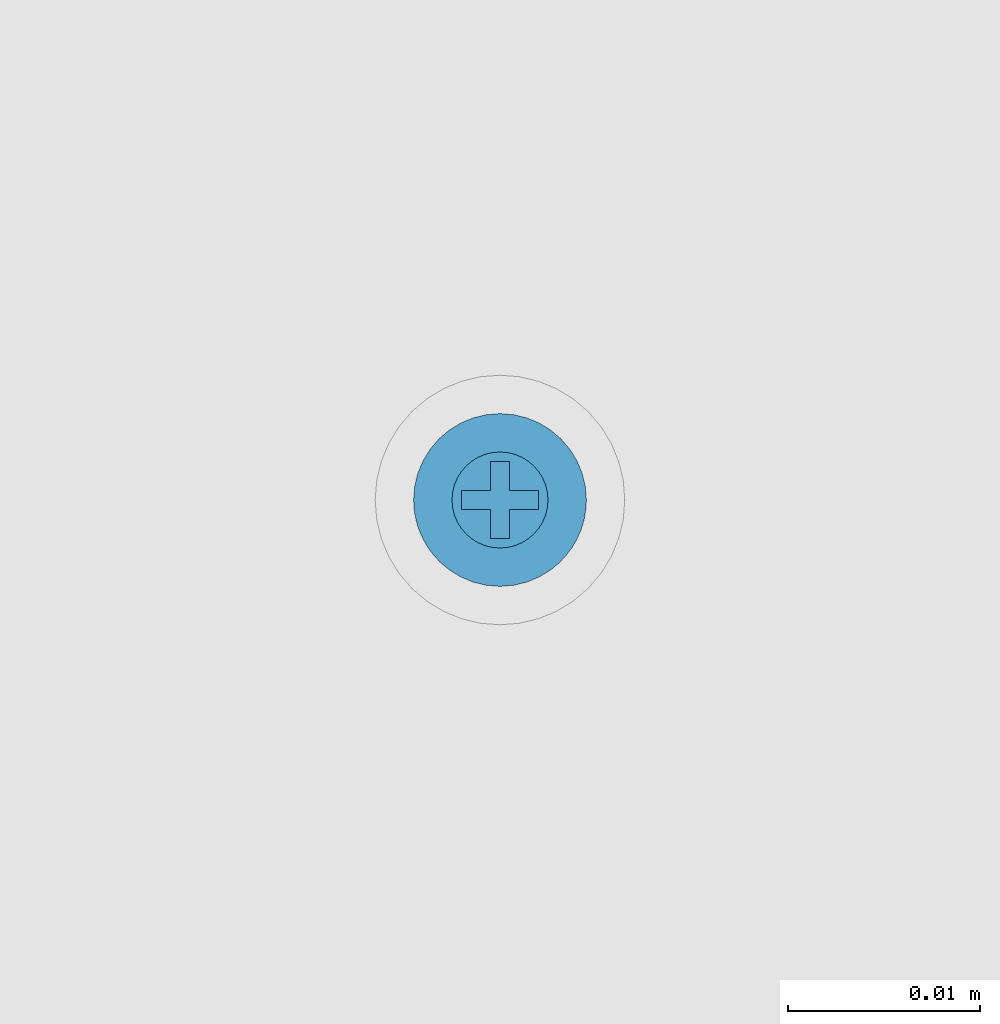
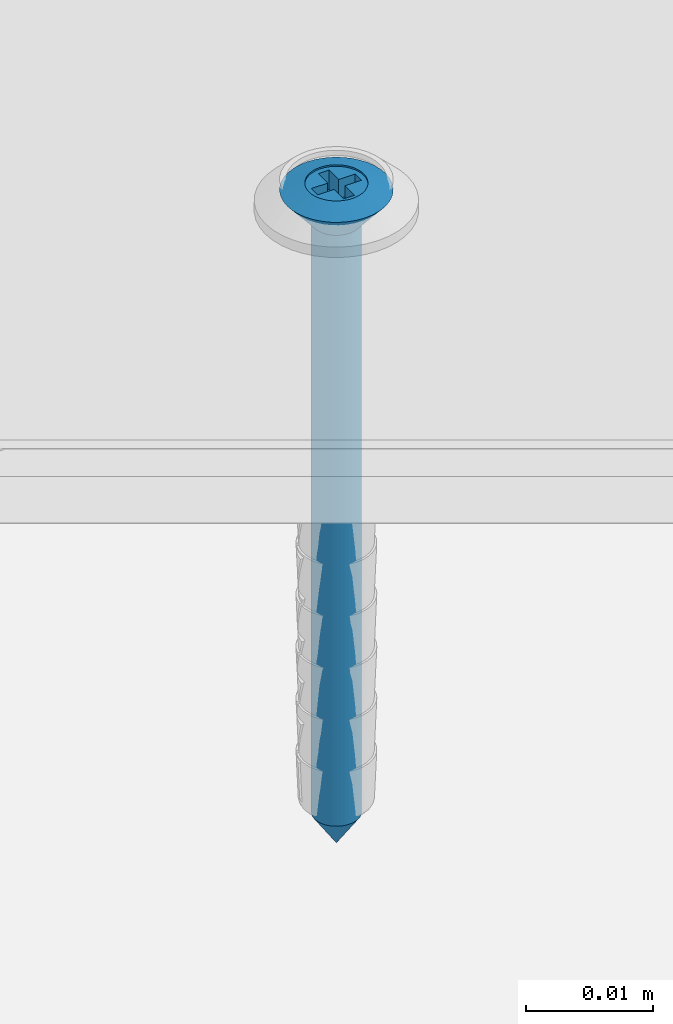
# One storey, part 67 of 92: 1 wall.
"""IFC2X3 building model written with IfcOpenShell, lengths in millimetres."""

import ifcopenshell
import ifcopenshell.guid

model = None  # the IFC model being written
_history = None  # IfcOwnerHistory: only IFC2X3 demands one
_inside = {}  # id of a spatial element -> (the spatial element, [elements in it])
_under = {}  # id of a project, library or spatial element -> (it, [spatial elements below it])
_declared = {}  # id of a project -> (the project, [libraries it declares])
_typed = {}  # id of a type object -> (the type object, [elements of that type])
_made_of = {}  # id of a material, layer set ... -> (it, [elements and type objects made of it])


def new_model(schema):
    """Start an empty IFC model of exactly this schema.

    Asked for "IFC4X3", IfcOpenShell would pick the latest addendum, in which some entities
    have other attributes; the version numbers below select the first issue.
    IFC2X3 requires an IfcOwnerHistory on every rooted entity: one is made here for all.
    """
    global model, _history
    if schema == "IFC4X3":
        model = ifcopenshell.file(schema_version=(4, 3, 0, 0))
    else:
        model = ifcopenshell.file(schema=schema)
    _inside.clear()
    _under.clear()
    _declared.clear()
    _typed.clear()
    _made_of.clear()
    _history = None
    if model.schema == "IFC2X3":
        org = make("IfcOrganization", Name="unknown")
        user = make(
            "IfcPersonAndOrganization",
            ThePerson=make("IfcPerson", FamilyName="unknown"),
            TheOrganization=org,
        )
        app = make(
            "IfcApplication",
            ApplicationDeveloper=org,
            Version="unknown",
            ApplicationFullName="unknown",
            ApplicationIdentifier="unknown",
        )
        _history = make(
            "IfcOwnerHistory",
            OwningUser=user,
            OwningApplication=app,
            ChangeAction="ADDED",
            CreationDate=0,
        )
    return model


def make(cls, **values):
    """One entity of the class cls with the attributes given. An attribute that is None is left unset."""
    return model.create_entity(
        cls, **{name: value for name, value in values.items() if value is not None}
    )


def rooted(cls, **values):
    """An entity with a GlobalId (a new one), such as an element, a storey or a relation."""
    return make(cls, GlobalId=ifcopenshell.guid.new(), OwnerHistory=_history, **values)


def si_unit(unit_type, name, prefix=None):
    """IfcSIUnit, for example si_unit("LENGTHUNIT", "METRE", prefix="MILLI")."""
    return make("IfcSIUnit", UnitType=unit_type, Prefix=prefix, Name=name)


def assignment(units):
    """IfcUnitAssignment: the units of a project."""
    return None if units is None else make("IfcUnitAssignment", Units=units)


def point(xyz):
    """IfcCartesianPoint."""
    return None if xyz is None else make("IfcCartesianPoint", Coordinates=xyz)


def direction(xyz):
    """IfcDirection."""
    return None if xyz is None else make("IfcDirection", DirectionRatios=xyz)


def frame(location, z_axis=None, x_axis=None):
    """IfcAxis2Placement3D, a coordinate frame: its origin and axes. An axis left out is left unset."""
    return make(
        "IfcAxis2Placement3D",
        Location=point(location),
        Axis=direction(z_axis),
        RefDirection=direction(x_axis),
    )


def origin_with_axes():
    """The frame at (0, 0, 0) with the z axis (0, 0, 1) and the x axis (1, 0, 0) written out."""
    return frame((0.0, 0.0, 0.0), z_axis=(0.0, 0.0, 1.0), x_axis=(1.0, 0.0, 0.0))


def place(relative_to, where):
    """IfcLocalPlacement: puts the frame where relative to a parent placement (None: the world)."""
    return make(
        "IfcLocalPlacement", PlacementRelTo=relative_to, RelativePlacement=where
    )


def context(
    kind, dimensions, precision=None, world=None, true_north=None, identifier=None
):
    """IfcGeometricRepresentationContext, for example the 3D "Model" context."""
    return make(
        "IfcGeometricRepresentationContext",
        ContextIdentifier=identifier,
        ContextType=kind,
        CoordinateSpaceDimension=dimensions,
        Precision=precision,
        WorldCoordinateSystem=world,
        TrueNorth=true_north,
    )


def subcontext(parent, identifier, kind, view, scale=None):
    """IfcGeometricRepresentationSubContext, for example "Body" below "Model"."""
    return make(
        "IfcGeometricRepresentationSubContext",
        ContextIdentifier=identifier,
        ContextType=kind,
        ParentContext=parent,
        TargetScale=scale,
        TargetView=view,
    )


def project(units=None, contexts=None):
    """IfcProject with its units and contexts."""
    return rooted(
        "IfcProject",
        Name="project",
        RepresentationContexts=contexts,
        UnitsInContext=assignment(units),
    )


def spatial(cls, under=None, at=None, **own):
    """A site, building, storey or space (cls), placed at a placement, below another one or the project."""
    s = rooted(cls, ObjectPlacement=at, **own)
    if under is not None:
        _under.setdefault(under.id(), (under, []))[1].append(s)
    return s


def faces_of(points, faces, orient=None, outer=None):
    """IfcFace entities. A face is a list of loops; a loop is a list of indices into points, from 0.

    orient and outer hold one flag for each loop. By default every Orientation is true, the
    first loop of a face is its IfcFaceOuterBound and the others are IfcFaceBound.
    """
    made = []
    for i, loops in enumerate(faces):
        bounds = []
        for j, loop in enumerate(loops):
            is_outer = j == 0 if outer is None else outer[i][j]
            bounds.append(
                make(
                    "IfcFaceOuterBound" if is_outer else "IfcFaceBound",
                    Bound=make("IfcPolyLoop", Polygon=[points[k] for k in loop]),
                    Orientation=True if orient is None else orient[i][j],
                )
            )
        made.append(make("IfcFace", Bounds=bounds))
    return made


def faceted_brep(points, faces, orient=None, outer=None, voids=None):
    """IfcFacetedBrep: a solid bounded by flat faces; with voids (closed shells), ...WithVoids."""
    shared = [point(p) for p in points]
    hull = make("IfcClosedShell", CfsFaces=faces_of(shared, faces, orient, outer))
    if voids is None:
        return make("IfcFacetedBrep", Outer=hull)
    return make(
        "IfcFacetedBrepWithVoids",
        Outer=hull,
        Voids=[
            make(cls, CfsFaces=faces_of(shared, fs, o, b)) for cls, fs, o, b in voids
        ],
    )


def shape(context_of_items, identifier, shape_type, items):
    """IfcShapeRepresentation: the items that make up one representation, for example the "Body"."""
    return make(
        "IfcShapeRepresentation",
        ContextOfItems=context_of_items,
        RepresentationIdentifier=identifier,
        RepresentationType=shape_type,
        Items=items,
    )


def material(Name=None, Category=None):
    """IfcMaterial."""
    return make("IfcMaterial", Name=Name, Category=Category)


def made_of(thing, what):
    """Note that an element or type object is made of a material, layer set ...; save() writes the relation."""
    if what is not None:
        _made_of.setdefault(what.id(), (what, []))[1].append(thing)
    return thing


def type_object(cls, material=None, **own):
    """A type object (cls), such as IfcWallType, which elements share."""
    return made_of(rooted(cls, **own), material)


def element(
    cls,
    number,
    at=None,
    inside=None,
    cuts=None,
    type_object=None,
    material=None,
    context=None,
    identifier="Body",
    shape_type=None,
    held_by="IfcProductDefinitionShape",
    body=None,
    shapes=None,
    **own,
):
    """One element of the class cls, such as IfcWall. Its Tag is "e" and its number.

    at: its placement. inside: the storey or other place that contains it. cuts: it is an
    opening in that element (IfcRelVoidsElement). A single representation is given by context,
    identifier, shape_type and body (its items); several are given by shapes. held_by: the class
    of the entity that holds the representations. save() writes the other relations.
    """
    e = rooted(cls, Tag="e%d" % number, ObjectPlacement=at, **own)
    if body is not None:
        shapes = [shape(context, identifier, shape_type, body)]
    if shapes is not None:
        e.Representation = make(held_by, Representations=shapes)
    if inside is not None:
        _inside.setdefault(inside.id(), (inside, []))[1].append(e)
    if cuts is not None:
        rooted(
            "IfcRelVoidsElement", RelatingBuildingElement=cuts, RelatedOpeningElement=e
        )
    if type_object is not None:
        _typed.setdefault(type_object.id(), (type_object, []))[1].append(e)
    return made_of(e, material)


def aggregate(whole, parts):
    """IfcRelAggregates: a whole, such as a stair, and the parts it consists of."""
    return rooted("IfcRelAggregates", RelatingObject=whole, RelatedObjects=parts)


def save(model, path):
    """Write the relations noted so far, then the file.

    IfcRelAggregates (storeys below a building ...), IfcRelContainedInSpatialStructure (elements
    in a storey), IfcRelDefinesByType, IfcRelAssociatesMaterial and IfcRelDeclares: one each for
    every whole, place, type object, material and project.
    """
    for whole, parts in _under.values():
        aggregate(whole, parts)
    for where, things in _inside.values():
        rooted(
            "IfcRelContainedInSpatialStructure",
            RelatedElements=things,
            RelatingStructure=where,
        )
    for kind, things in _typed.values():
        rooted("IfcRelDefinesByType", RelatedObjects=things, RelatingType=kind)
    for what, things in _made_of.values():
        rooted("IfcRelAssociatesMaterial", RelatedObjects=things, RelatingMaterial=what)
    for by, libraries in _declared.values():
        rooted("IfcRelDeclares", RelatingContext=by, RelatedDefinitions=libraries)
    model.write(path)


model = new_model("IFC2X3")

# Units and contexts
model_context = context("Model", 3, world=origin_with_axes())
body_context = subcontext(model_context, "Body", "Model", "MODEL_VIEW")
ifc_project = project(units=[si_unit("LENGTHUNIT", "METRE", prefix="MILLI"), si_unit("AREAUNIT", "SQUARE_METRE"), si_unit("VOLUMEUNIT", "CUBIC_METRE")], contexts=[model_context])

# Site, building, storey
site_placement = place(None, origin_with_axes())
site = spatial("IfcSite", under=ifc_project, at=site_placement, Name="Default Site", CompositionType="ELEMENT")
building_placement = place(site_placement, origin_with_axes())
building = spatial("IfcBuilding", under=site, at=building_placement, Name="Default Building", CompositionType="ELEMENT")
storey_placement = place(building_placement, origin_with_axes())
storey = spatial("IfcBuildingStorey", under=building, at=storey_placement, Name="Default Building Storey", CompositionType="ELEMENT", Elevation=0.0)

# Wall
ifc_material = material(Name="Default")
wall_type = type_object("IfcWallType", Name="Kołek rozporowy min. fi 6", PredefinedType="NOTDEFINED")
wall_placement = place(storey_placement, frame((-3376.2832229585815, 3055.545827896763, 67.99291798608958), z_axis=(0.0, 0.0, 1.0), x_axis=(4.0245584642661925e-16, 1.0, 0.0)))
element("IfcWall", 1, at=wall_placement, inside=storey, type_object=wall_type, material=ifc_material, Name="Kołek rozporowy min. fi 6", context=body_context, shape_type="Brep", body=[
    faceted_brep([(-1438.2587671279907, -3452.579259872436, -0.46425670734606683), (-1435.7895851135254, -3452.970266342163, -3.464256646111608), (-1435.8141422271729, -3453.2833099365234, -3.464256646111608), (-1438.3141994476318, -3453.2833099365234, -0.46425670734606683), (-1438.093900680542, -3451.892614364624, -0.46425670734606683), (-1435.7162714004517, -3452.6650905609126, -3.464256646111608), (-1437.8236532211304, -3451.240301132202, -0.46425670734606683), (-1435.5961084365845, -3452.3751735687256, -3.464256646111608), (-1437.4547004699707, -3450.6382942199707, -0.46425670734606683), (-1435.4321956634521, -3452.107667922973, -3.464256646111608), (-1436.9961023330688, -3450.101137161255, -0.46425670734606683), (-1435.22834777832, -3451.8690109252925, -3.464256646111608), (-1436.4591836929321, -3449.642658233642, -0.46425670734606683), (-1434.9896907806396, -3451.665163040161, -3.464256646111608), (-1435.8570575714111, -3449.2735862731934, -0.46425670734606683), (-1434.7221851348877, -3451.501131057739, -3.464256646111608), (-1435.2047443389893, -3449.0034580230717, -0.46425670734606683), (-1434.4321489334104, -3451.381206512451, -3.464256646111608), (-1434.5180988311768, -3448.838710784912, -0.46425670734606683), (-1434.1269731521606, -3451.307773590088, -3.464256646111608), (-1433.8141679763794, -3448.7831592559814, -0.46425670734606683), (-1433.8141679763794, -3451.28321647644, -3.464256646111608), (-1433.110237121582, -3448.838710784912, -0.46425670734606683), (-1433.5012435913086, -3451.307773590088, -3.464256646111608), (-1432.4235916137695, -3449.0034580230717, -0.46425670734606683), (-1433.1960678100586, -3451.381206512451, -3.464256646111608), (-1431.771159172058, -3449.2735862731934, -0.46425670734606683), (-1432.9061508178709, -3451.501131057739, -3.464256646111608), (-1431.1691522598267, -3449.642658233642, -0.46425670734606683), (-1432.6385259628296, -3451.665163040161, -3.464256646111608), (-1430.6321144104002, -3450.101137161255, -0.46425670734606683), (-1432.3999881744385, -3451.8690109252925, -3.464256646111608), (-1430.1735162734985, -3450.6382942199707, -0.46425670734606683), (-1432.1961402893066, -3452.107667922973, -3.464256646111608), (-1429.8045635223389, -3451.240301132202, -0.46425670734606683), (-1432.0321083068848, -3452.3751735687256, -3.464256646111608), (-1429.5344352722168, -3451.892614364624, -0.46425670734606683), (-1431.9120645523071, -3452.6650905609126, -3.464256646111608), (-1431.814193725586, -3453.2833099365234, -3.464256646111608), (-1429.314136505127, -3453.2833099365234, -0.46425670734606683), (-1429.369568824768, -3453.9871215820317, -0.46425670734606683), (-1431.8387508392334, -3453.5961151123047, -3.464256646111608), (-1431.8387508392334, -3452.970266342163, -3.464256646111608), (-1429.369568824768, -3452.579259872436, -0.46425670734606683), (-1429.5344352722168, -3454.6737670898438, -0.46425670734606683), (-1431.9120645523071, -3453.9012908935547, -3.464256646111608), (-1429.8045635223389, -3455.3260803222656, -0.46425670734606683), (-1432.0321083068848, -3454.191207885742, -3.464256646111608), (-1430.1735162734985, -3455.9283256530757, -0.46425670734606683), (-1432.1961402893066, -3454.458713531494, -3.464256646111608), (-1430.6321144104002, -3456.465244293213, -0.46425670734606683), (-1432.3999881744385, -3454.6973705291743, -3.464256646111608), (-1431.1691522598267, -3456.923723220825, -0.46425670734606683), (-1432.6385259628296, -3454.9012184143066, -3.464256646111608), (-1431.771159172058, -3457.2927951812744, -0.46425670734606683), (-1432.9061508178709, -3455.065250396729, -3.464256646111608), (-1432.4235916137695, -3457.562923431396, -0.46425670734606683), (-1433.1960678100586, -3455.1854133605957, -3.464256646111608), (-1433.110237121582, -3457.7279090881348, -0.46425670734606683), (-1433.5012435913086, -3455.25860786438, -3.464256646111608), (-1433.8141679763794, -3457.7832221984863, -0.46425670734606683), (-1433.8141679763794, -3455.283164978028, -3.464256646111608), (-1434.1269731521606, -3455.25860786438, -3.464256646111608), (-1434.3430995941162, -3457.7519893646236, -0.46425670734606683), (-1434.4321489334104, -3455.1854133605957, -3.464256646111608), (-1434.8646402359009, -3457.6590061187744, -0.46425670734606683), (-1435.3716373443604, -3457.504987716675, -0.46425670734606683), (-1434.7221851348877, -3455.065250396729, -3.464256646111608), (-1435.8570575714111, -3457.2927951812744, -0.46425670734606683), (-1436.3142251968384, -3457.024812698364, -0.46425670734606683), (-1435.22834777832, -3454.6973705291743, -3.464256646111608), (-1434.9896907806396, -3454.9012184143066, -3.464256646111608), (-1436.7367029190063, -3456.705093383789, -0.46425670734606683), (-1437.118649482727, -3456.337928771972, -0.46425670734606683), (-1435.4321956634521, -3454.458713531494, -3.464256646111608), (-1437.4547004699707, -3455.9283256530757, -0.46425670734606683), (-1437.8236532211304, -3455.3260803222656, -0.46425670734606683), (-1435.5961084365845, -3454.191207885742, -3.464256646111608), (-1438.093900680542, -3454.6737670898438, -0.46425670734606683), (-1435.7162714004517, -3453.9012908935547, -3.464256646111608), (-1438.2587671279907, -3453.9871215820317, -0.46425670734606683), (-1435.7895851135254, -3453.5961151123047, -3.464256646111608), (-1433.8141679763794, -3455.7831287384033, 0.20073754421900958), (-1434.2052936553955, -3455.752372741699, 0.20073754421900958), (-1434.5866441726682, -3455.6608200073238, 0.20073754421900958), (-1434.9491596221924, -3455.510854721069, 0.20073754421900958), (-1435.2836608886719, -3455.305814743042, 0.20073754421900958), (-1435.581922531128, -3455.0509452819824, 0.20073754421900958), (-1435.836672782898, -3454.7526836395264, 0.20073754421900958), (-1436.0417127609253, -3454.418182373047, 0.20073754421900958), (-1436.1917972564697, -3454.0557861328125, 0.20073754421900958), (-1436.2833499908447, -3453.6743164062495, 0.20073754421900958), (-1436.3141059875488, -3453.2833099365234, 0.20073754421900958), (-1436.2833499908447, -3452.8920650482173, 0.20073754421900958), (-1436.1917972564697, -3452.5105953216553, 0.20073754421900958), (-1436.0417127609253, -3452.148199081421, 0.20073754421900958), (-1435.836672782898, -3451.8136978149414, 0.20073754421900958), (-1435.581922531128, -3451.5154361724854, 0.20073754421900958), (-1435.2836608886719, -3451.260566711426, 0.20073754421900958), (-1434.9491596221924, -3451.0557651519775, 0.20073754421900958), (-1434.5866441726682, -3450.905561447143, 0.20073754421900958), (-1433.8141679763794, -3450.7832527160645, 0.20073754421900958), (-1433.4230422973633, -3450.8140087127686, 0.20073754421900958), (-1434.2052936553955, -3450.8140087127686, 0.20073754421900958), (-1433.0415725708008, -3450.905561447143, 0.20073754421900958), (-1432.6791763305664, -3451.0557651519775, 0.20073754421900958), (-1432.344675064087, -3451.260566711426, 0.20073754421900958), (-1432.0464134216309, -3451.5154361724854, 0.20073754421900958), (-1431.7916631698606, -3451.8136978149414, 0.20073754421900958), (-1431.5866231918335, -3452.148199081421, 0.20073754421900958), (-1431.436538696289, -3452.5105953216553, 0.20073754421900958), (-1431.344985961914, -3452.8920650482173, 0.20073754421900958), (-1431.3141107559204, -3453.2833099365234, 0.20073754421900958), (-1431.344985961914, -3453.6743164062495, 0.20073754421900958), (-1431.436538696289, -3454.0557861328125, 0.20073754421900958), (-1431.5866231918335, -3454.418182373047, 0.20073754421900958), (-1431.7916631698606, -3454.7526836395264, 0.20073754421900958), (-1432.0464134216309, -3455.0509452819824, 0.20073754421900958), (-1432.344675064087, -3455.305814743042, 0.20073754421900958), (-1432.6791763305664, -3455.510854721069, 0.20073754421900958), (-1433.0415725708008, -3455.6608200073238, 0.20073754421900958), (-1433.4230422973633, -3455.752372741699, 0.20073754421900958), (-1435.8141422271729, -3453.2833099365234, -60.464255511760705), (-1435.7895851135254, -3452.970266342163, -60.464255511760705), (-1433.8141679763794, -3453.2833099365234, -63.46425414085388), (-1435.7162714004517, -3452.6650905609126, -60.464255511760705), (-1435.5961084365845, -3452.3751735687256, -60.464255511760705), (-1435.4321956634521, -3452.107667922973, -60.464255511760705), (-1435.22834777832, -3451.8690109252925, -60.464255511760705), (-1434.9896907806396, -3451.665163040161, -60.464255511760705), (-1434.7221851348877, -3451.501131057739, -60.464255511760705), (-1434.4321489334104, -3451.381206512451, -60.464255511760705), (-1434.1269731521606, -3451.307773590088, -60.464255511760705), (-1433.8141679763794, -3451.28321647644, -60.464255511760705), (-1433.5012435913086, -3451.307773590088, -60.464255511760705), (-1433.1960678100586, -3451.381206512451, -60.464255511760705), (-1432.9061508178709, -3451.501131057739, -60.464255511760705), (-1432.6385259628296, -3451.665163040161, -60.464255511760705), (-1432.3999881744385, -3451.8690109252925, -60.464255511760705), (-1432.1961402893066, -3452.107667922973, -60.464255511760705), (-1432.0321083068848, -3452.3751735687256, -60.464255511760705), (-1431.9120645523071, -3452.6650905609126, -60.464255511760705), (-1431.8387508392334, -3452.970266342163, -60.464255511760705), (-1431.814193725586, -3453.2833099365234, -60.464255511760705), (-1431.8387508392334, -3453.5961151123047, -60.464255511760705), (-1431.9120645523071, -3453.9012908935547, -60.464255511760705), (-1432.0321083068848, -3454.191207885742, -60.464255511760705), (-1432.1961402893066, -3454.458713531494, -60.464255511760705), (-1432.3999881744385, -3454.6973705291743, -60.464255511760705), (-1432.6385259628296, -3454.9012184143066, -60.464255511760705), (-1432.9061508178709, -3455.065250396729, -60.464255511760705), (-1433.1960678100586, -3455.1854133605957, -60.464255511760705), (-1433.5012435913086, -3455.25860786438, -60.464255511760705), (-1433.8141679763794, -3455.283164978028, -60.464255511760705), (-1434.1269731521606, -3455.25860786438, -60.464255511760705), (-1434.4321489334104, -3455.1854133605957, -60.464255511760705), (-1434.7221851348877, -3455.065250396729, -60.464255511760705), (-1434.9896907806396, -3454.9012184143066, -60.464255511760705), (-1435.22834777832, -3454.6973705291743, -60.464255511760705), (-1435.4321956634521, -3454.458713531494, -60.464255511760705), (-1435.5961084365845, -3454.191207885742, -60.464255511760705), (-1435.7162714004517, -3453.9012908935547, -60.464255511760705), (-1435.7895851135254, -3453.5961151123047, -60.464255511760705), (-1436.1917972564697, -3454.0557861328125, 0.049999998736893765), (-1436.0417127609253, -3454.418182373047, 0.049999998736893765), (-1435.836672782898, -3454.7526836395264, 0.049999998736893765), (-1435.581922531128, -3455.0509452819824, 0.049999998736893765), (-1435.2836608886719, -3455.305814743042, 0.049999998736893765), (-1434.9491596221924, -3455.510854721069, 0.049999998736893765), (-1434.5866441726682, -3455.6608200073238, 0.049999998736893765), (-1434.2052936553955, -3455.752372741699, 0.049999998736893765), (-1433.8141679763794, -3455.7831287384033, 0.049999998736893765), (-1433.4230422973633, -3455.752372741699, 0.049999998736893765), (-1433.0415725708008, -3455.6608200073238, 0.049999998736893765), (-1432.6791763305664, -3455.510854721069, 0.049999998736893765), (-1432.344675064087, -3455.305814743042, 0.049999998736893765), (-1432.0464134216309, -3455.0509452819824, 0.049999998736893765), (-1431.7916631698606, -3454.7526836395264, 0.049999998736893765), (-1431.5866231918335, -3454.418182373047, 0.049999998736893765), (-1431.436538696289, -3454.0557861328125, 0.049999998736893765), (-1431.344985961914, -3453.6743164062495, 0.049999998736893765), (-1431.3141107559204, -3453.2833099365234, 0.049999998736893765), (-1431.344985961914, -3452.8920650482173, 0.049999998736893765), (-1431.436538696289, -3452.5105953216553, 0.049999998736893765), (-1431.5866231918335, -3452.148199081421, 0.049999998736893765), (-1431.7916631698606, -3451.8136978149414, 0.049999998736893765), (-1432.0464134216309, -3451.5154361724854, 0.049999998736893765), (-1432.344675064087, -3451.260566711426, 0.049999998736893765), (-1432.6791763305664, -3451.0557651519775, 0.049999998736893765), (-1433.0415725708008, -3450.905561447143, 0.049999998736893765), (-1433.4230422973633, -3450.8140087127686, 0.049999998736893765), (-1433.8141679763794, -3450.7832527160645, 0.049999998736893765), (-1434.2052936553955, -3450.8140087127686, 0.049999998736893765), (-1434.5866441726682, -3450.905561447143, 0.049999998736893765), (-1434.9491596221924, -3451.0557651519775, 0.049999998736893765), (-1435.2836608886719, -3451.260566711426, 0.049999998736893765), (-1435.581922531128, -3451.5154361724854, 0.049999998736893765), (-1435.836672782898, -3451.8136978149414, 0.049999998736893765), (-1436.0417127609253, -3452.148199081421, 0.049999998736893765), (-1436.1917972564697, -3452.5105953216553, 0.049999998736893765), (-1436.2833499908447, -3452.8920650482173, 0.049999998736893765), (-1436.3141059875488, -3453.2833099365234, 0.049999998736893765), (-1436.2833499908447, -3453.6743164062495, 0.049999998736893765), (-1434.3141317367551, -3453.7832736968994, 0.049999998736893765), (-1435.8141422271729, -3453.7832736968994, 0.049999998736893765), (-1435.8141422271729, -3452.7831077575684, 0.049999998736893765), (-1434.3141317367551, -3452.7831077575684, 0.049999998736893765), (-1434.3141317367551, -3451.28321647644, 0.049999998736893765), (-1433.3142042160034, -3451.28321647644, 0.049999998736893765), (-1433.3142042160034, -3452.7831077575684, 0.049999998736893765), (-1431.814193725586, -3452.7831077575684, 0.049999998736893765), (-1431.814193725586, -3453.7832736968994, 0.049999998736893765), (-1433.3142042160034, -3453.7832736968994, 0.049999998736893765), (-1433.3142042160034, -3455.283164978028, 0.049999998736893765), (-1434.3141317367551, -3455.283164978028, 0.049999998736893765), (-1435.8141422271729, -3452.7831077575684, -1.799262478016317), (-1435.8141422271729, -3453.7832736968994, -1.799262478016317), (-1434.3141317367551, -3453.7832736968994, -1.799262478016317), (-1434.3141317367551, -3455.283164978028, -1.799262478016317), (-1433.3142042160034, -3455.283164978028, -1.799262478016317), (-1433.3142042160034, -3453.7832736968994, -1.799262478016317), (-1431.814193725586, -3453.7832736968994, -1.799262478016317), (-1431.814193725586, -3452.7831077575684, -1.799262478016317), (-1433.3142042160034, -3452.7831077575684, -1.799262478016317), (-1433.3142042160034, -3451.28321647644, -1.799262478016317), (-1434.3141317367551, -3451.28321647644, -1.799262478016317), (-1434.3141317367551, -3452.7831077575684, -1.799262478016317)], [[[0, 1, 2, 3]], [[1, 0, 4, 5]], [[5, 4, 6, 7]], [[8, 9, 7, 6]], [[9, 8, 10, 11]], [[12, 13, 11, 10]], [[13, 12, 14, 15]], [[15, 14, 16, 17]], [[18, 19, 17, 16]], [[19, 18, 20, 21]], [[22, 23, 21, 20]], [[23, 22, 24, 25]], [[25, 24, 26, 27]], [[28, 29, 27, 26]], [[29, 28, 30, 31]], [[32, 33, 31, 30]], [[33, 32, 34, 35]], [[35, 34, 36, 37]], [[38, 39, 40, 41]], [[42, 43, 39, 38]], [[43, 42, 37, 36]], [[41, 40, 44, 45]], [[45, 44, 46, 47]], [[48, 49, 47, 46]], [[49, 48, 50, 51]], [[52, 53, 51, 50]], [[53, 52, 54, 55]], [[55, 54, 56, 57]], [[58, 59, 57, 56]], [[59, 58, 60, 61]], [[62, 60, 63]], [[62, 61, 60]], [[63, 64, 62]], [[63, 65, 64]], [[64, 65, 66]], [[66, 67, 64]], [[66, 68, 67]], [[69, 70, 71]], [[69, 72, 70]], [[71, 68, 69]], [[71, 67, 68]], [[72, 73, 70]], [[74, 73, 75]], [[74, 70, 73]], [[74, 75, 76, 77]], [[77, 76, 78, 79]], [[80, 81, 79, 78]], [[81, 80, 3, 2]], [[63, 82, 83]], [[63, 60, 82]], [[83, 65, 63]], [[83, 84, 65]], [[84, 68, 66]], [[84, 85, 68]], [[66, 65, 84]], [[69, 85, 86]], [[69, 68, 85]], [[87, 73, 72]], [[72, 86, 87]], [[72, 69, 86]], [[75, 87, 88]], [[75, 73, 87]], [[75, 88, 89, 76]], [[76, 89, 90, 78]], [[91, 80, 78, 90]], [[80, 91, 92, 3]], [[93, 0, 3, 92]], [[0, 93, 94, 4]], [[4, 94, 95, 6]], [[96, 8, 6, 95]], [[8, 96, 97, 10]], [[98, 12, 10, 97]], [[12, 98, 99, 14]], [[14, 99, 100, 16]], [[20, 101, 102, 22]], [[18, 103, 101, 20]], [[103, 18, 16, 100]], [[22, 102, 104, 24]], [[24, 104, 105, 26]], [[106, 28, 26, 105]], [[28, 106, 107, 30]], [[108, 32, 30, 107]], [[32, 108, 109, 34]], [[34, 109, 110, 36]], [[111, 43, 36, 110]], [[43, 111, 112, 39]], [[113, 40, 39, 112]], [[40, 113, 114, 44]], [[44, 114, 115, 46]], [[116, 48, 46, 115]], [[48, 116, 117, 50]], [[118, 52, 50, 117]], [[52, 118, 119, 54]], [[54, 119, 120, 56]], [[121, 58, 56, 120]], [[58, 121, 82, 60]], [[122, 123, 124]], [[123, 125, 124]], [[125, 126, 124]], [[124, 126, 127]], [[127, 128, 124]], [[124, 128, 129]], [[129, 130, 124]], [[130, 131, 124]], [[124, 131, 132]], [[132, 133, 124]], [[124, 133, 134]], [[134, 135, 124]], [[135, 136, 124]], [[124, 136, 137]], [[137, 138, 124]], [[124, 138, 139]], [[139, 140, 124]], [[140, 141, 124]], [[124, 141, 142]], [[142, 143, 124]], [[124, 143, 144]], [[144, 145, 124]], [[145, 146, 124]], [[124, 146, 147]], [[147, 148, 124]], [[124, 148, 149]], [[149, 150, 124]], [[150, 151, 124]], [[124, 151, 152]], [[152, 153, 124]], [[124, 153, 154]], [[154, 155, 124]], [[155, 156, 124]], [[124, 156, 157]], [[157, 158, 124]], [[124, 158, 159]], [[159, 160, 124]], [[160, 161, 124]], [[124, 161, 162]], [[124, 162, 122]], [[1, 123, 122, 2]], [[123, 1, 5, 125]], [[125, 5, 7, 126]], [[9, 127, 126, 7]], [[127, 9, 11, 128]], [[13, 129, 128, 11]], [[129, 13, 15, 130]], [[130, 15, 17, 131]], [[19, 132, 131, 17]], [[132, 19, 21, 133]], [[23, 134, 133, 21]], [[134, 23, 25, 135]], [[135, 25, 27, 136]], [[29, 137, 136, 27]], [[137, 29, 31, 138]], [[33, 139, 138, 31]], [[139, 33, 35, 140]], [[140, 35, 37, 141]], [[143, 38, 41, 144]], [[142, 42, 38, 143]], [[42, 142, 141, 37]], [[144, 41, 45, 145]], [[145, 45, 47, 146]], [[49, 147, 146, 47]], [[147, 49, 51, 148]], [[53, 149, 148, 51]], [[149, 53, 55, 150]], [[150, 55, 57, 151]], [[59, 152, 151, 57]], [[152, 59, 61, 153]], [[62, 154, 153, 61]], [[154, 62, 64, 155]], [[155, 64, 67, 156]], [[71, 157, 156, 67]], [[157, 71, 70, 158]], [[74, 159, 158, 70]], [[159, 74, 77, 160]], [[160, 77, 79, 161]], [[81, 162, 161, 79]], [[162, 81, 2, 122]], [[163, 164, 165, 166, 167, 168, 169, 170, 171, 172, 173, 174, 175, 176, 177, 178, 179, 180, 181, 182, 183, 184, 185, 186, 187, 188, 189, 190, 191, 192, 193, 194, 195, 196, 197, 198, 199, 200, 201, 202], [203, 204, 205, 206, 207, 208, 209, 210, 211, 212, 213, 214]], [[113, 112, 181, 180]], [[180, 179, 114, 113]], [[179, 178, 115, 114]], [[116, 115, 178, 177]], [[177, 176, 117, 116]], [[118, 117, 176, 175]], [[175, 174, 119, 118]], [[174, 173, 120, 119]], [[121, 120, 173, 172]], [[172, 171, 82, 121]], [[83, 82, 171, 170]], [[170, 169, 84, 83]], [[169, 168, 85, 84]], [[86, 85, 168, 167]], [[167, 166, 87, 86]], [[88, 87, 166, 165]], [[165, 164, 89, 88]], [[164, 163, 90, 89]], [[201, 200, 93, 92]], [[202, 201, 92, 91]], [[91, 90, 163, 202]], [[200, 199, 94, 93]], [[199, 198, 95, 94]], [[96, 95, 198, 197]], [[197, 196, 97, 96]], [[98, 97, 196, 195]], [[195, 194, 99, 98]], [[194, 193, 100, 99]], [[103, 100, 193, 192]], [[192, 191, 101, 103]], [[102, 101, 191, 190]], [[190, 189, 104, 102]], [[189, 188, 105, 104]], [[106, 105, 188, 187]], [[187, 186, 107, 106]], [[108, 107, 186, 185]], [[185, 184, 109, 108]], [[184, 183, 110, 109]], [[111, 110, 183, 182]], [[182, 181, 112, 111]], [[215, 216, 217, 218, 219, 220, 221, 222, 223, 224, 225, 226]], [[224, 208, 207, 225]], [[225, 207, 206, 226]], [[226, 206, 205, 215]], [[215, 205, 204, 216]], [[216, 204, 203, 217]], [[217, 203, 214, 218]], [[218, 214, 213, 219]], [[219, 213, 212, 220]], [[220, 212, 211, 221]], [[221, 211, 210, 222]], [[222, 210, 209, 223]], [[223, 209, 208, 224]]]),
])

save(model, "model.ifc")
